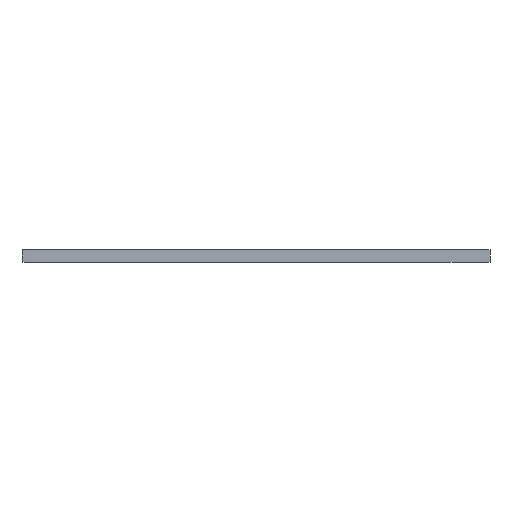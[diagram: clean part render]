
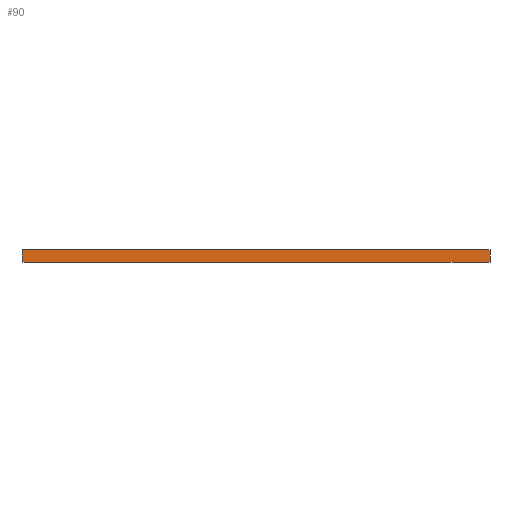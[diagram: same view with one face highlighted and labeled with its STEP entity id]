
A CAD part, front view. The second image highlights one B-rep face of the part: STEP entity #90.
In plain terms, the highlighted planar face has unit normal (0, -1, 0).
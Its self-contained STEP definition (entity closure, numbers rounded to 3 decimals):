
#35=CARTESIAN_POINT('',(59.987,0.013,1.6));
#36=VERTEX_POINT('',#35);
#43=CARTESIAN_POINT('',(59.987,0.013,0.));
#44=VERTEX_POINT('',#43);
#45=CARTESIAN_POINT('',(59.987,0.013,1.6));
#46=DIRECTION('',(0.,0.,-1.));
#47=VECTOR('',#46,1.6);
#48=LINE('',#45,#47);
#49=EDGE_CURVE('',#36,#44,#48,.T.);
#60=CARTESIAN_POINT('',(59.987,0.013,0.));
#61=DIRECTION('',(-1.,0.,0.));
#62=DIRECTION('',(0.,-1.,-0.));
#63=AXIS2_PLACEMENT_3D('',#60,#62,#61);
#64=PLANE('',#63);
#65=ORIENTED_EDGE('',*,*,#49,.F.);
#66=CARTESIAN_POINT('',(0.013,0.013,1.6));
#67=VERTEX_POINT('',#66);
#68=CARTESIAN_POINT('',(59.987,0.013,1.6));
#69=DIRECTION('',(-1.,0.,0.));
#70=VECTOR('',#69,59.975);
#71=LINE('',#68,#70);
#72=EDGE_CURVE('',#36,#67,#71,.T.);
#73=ORIENTED_EDGE('E5',*,*,#72,.T.);
#74=CARTESIAN_POINT('',(0.013,0.013,0.));
#75=VERTEX_POINT('',#74);
#76=CARTESIAN_POINT('',(0.013,0.013,1.6));
#77=DIRECTION('',(0.,0.,-1.));
#78=VECTOR('',#77,1.6);
#79=LINE('',#76,#78);
#80=EDGE_CURVE('',#67,#75,#79,.T.);
#81=ORIENTED_EDGE('E6',*,*,#80,.T.);
#82=CARTESIAN_POINT('',(0.013,0.013,0.));
#83=DIRECTION('',(1.,0.,0.));
#84=VECTOR('',#83,59.975);
#85=LINE('',#82,#84);
#86=EDGE_CURVE('',#75,#44,#85,.T.);
#87=ORIENTED_EDGE('E7',*,*,#86,.T.);
#88=EDGE_LOOP('',(#65,#73,#81,#87));
#89=FACE_OUTER_BOUND('',#88,.T.);
#90=ADVANCED_FACE('F2',(#89),#64,.T.);
